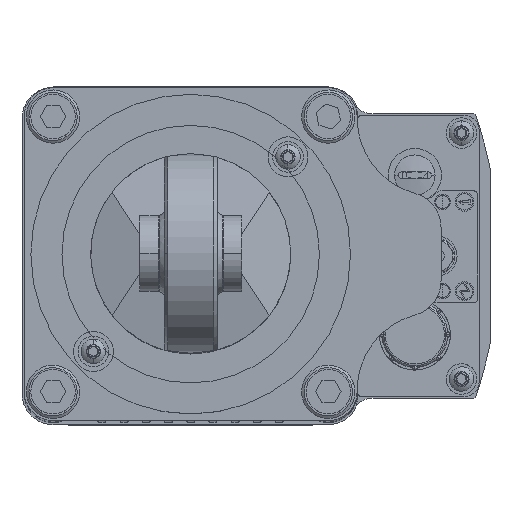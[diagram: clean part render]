
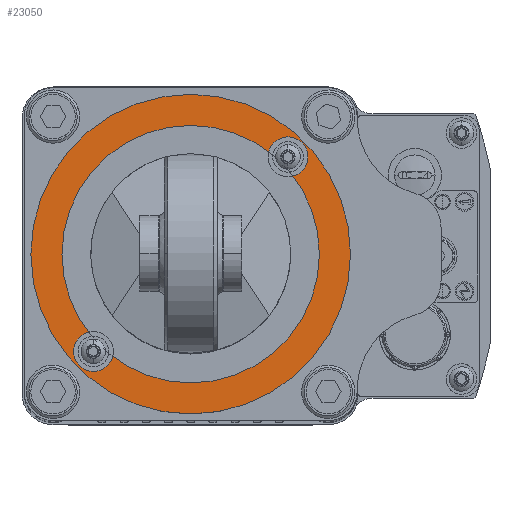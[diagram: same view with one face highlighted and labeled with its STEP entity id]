
A CAD part, top view. The second image highlights one B-rep face of the part: STEP entity #23050.
In plain terms, the highlighted planar face has unit normal (0, 0, 1).
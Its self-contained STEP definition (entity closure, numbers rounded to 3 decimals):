
#2644 = EDGE_LOOP ( 'NONE', ( #10191, #145426 ) ) ;
#3032 = VERTEX_POINT ( 'NONE', #33137 ) ;
#8788 = VERTEX_POINT ( 'NONE', #125389 ) ;
#9697 = CARTESIAN_POINT ( 'NONE',  ( 21.92, 21.92, 237.9 ) ) ;
#9721 = DIRECTION ( 'NONE',  ( 1., 0., 0. ) ) ;
#10191 = ORIENTED_EDGE ( 'NONE', *, *, #43139, .F. ) ;
#10385 = VERTEX_POINT ( 'NONE', #13974 ) ;
#10716 = CIRCLE ( 'NONE', #43282, 1.25 ) ;
#11981 = VERTEX_POINT ( 'NONE', #64451 ) ;
#13974 = CARTESIAN_POINT ( 'NONE',  ( 20.67, 21.92, 237.9 ) ) ;
#15721 = ORIENTED_EDGE ( 'NONE', *, *, #18798, .F. ) ;
#16858 = CARTESIAN_POINT ( 'NONE',  ( -21.92, -21.92, 237.9 ) ) ;
#17372 = AXIS2_PLACEMENT_3D ( 'NONE', #28205, #148674, #136764 ) ;
#18798 = EDGE_CURVE ( 'NONE', #72674, #3032, #84270, .T. ) ;
#19974 = AXIS2_PLACEMENT_3D ( 'NONE', #43620, #131505, #119681 ) ;
#22714 = AXIS2_PLACEMENT_3D ( 'NONE', #57145, #142815, #105620 ) ;
#23050 = ADVANCED_FACE ( 'NONE', ( #151437, #142693, #93613, #141913 ), #42881, .T. ) ;
#25005 = EDGE_LOOP ( 'NONE', ( #81691, #63979 ) ) ;
#25981 = AXIS2_PLACEMENT_3D ( 'NONE', #94511, #105654, #9721 ) ;
#28205 = CARTESIAN_POINT ( 'NONE',  ( 0., 0., 237.9 ) ) ;
#30241 = EDGE_LOOP ( 'NONE', ( #153117, #15721 ) ) ;
#33137 = CARTESIAN_POINT ( 'NONE',  ( -20.67, -21.92, 237.9 ) ) ;
#35007 = DIRECTION ( 'NONE',  ( 0., 0., 1. ) ) ;
#36123 = EDGE_CURVE ( 'NONE', #10385, #11981, #10716, .T. ) ;
#36903 = VERTEX_POINT ( 'NONE', #139314 ) ;
#42881 = PLANE ( 'NONE',  #118765 ) ;
#43139 = EDGE_CURVE ( 'NONE', #11981, #10385, #78756, .T. ) ;
#43209 = AXIS2_PLACEMENT_3D ( 'NONE', #9697, #35007, #93734 ) ;
#43282 = AXIS2_PLACEMENT_3D ( 'NONE', #79517, #70688, #141311 ) ;
#43620 = CARTESIAN_POINT ( 'NONE',  ( 0., 0., 237.9 ) ) ;
#45453 = VERTEX_POINT ( 'NONE', #71403 ) ;
#48311 = DIRECTION ( 'NONE',  ( 1., 0., 0. ) ) ;
#51727 = CIRCLE ( 'NONE', #127775, 1.25 ) ;
#57145 = CARTESIAN_POINT ( 'NONE',  ( 0., 0., 237.9 ) ) ;
#60249 = EDGE_CURVE ( 'NONE', #8788, #45453, #101487, .T. ) ;
#63979 = ORIENTED_EDGE ( 'NONE', *, *, #60249, .T. ) ;
#64451 = CARTESIAN_POINT ( 'NONE',  ( 23.17, 21.92, 237.9 ) ) ;
#65663 = CIRCLE ( 'NONE', #22714, 36. ) ;
#66230 = EDGE_LOOP ( 'NONE', ( #141789, #147737 ) ) ;
#70688 = DIRECTION ( 'NONE',  ( 0., 0., 1. ) ) ;
#71403 = CARTESIAN_POINT ( 'NONE',  ( -36., 0., 237.9 ) ) ;
#72674 = VERTEX_POINT ( 'NONE', #95200 ) ;
#73053 = CIRCLE ( 'NONE', #19974, 29. ) ;
#73598 = AXIS2_PLACEMENT_3D ( 'NONE', #113609, #101675, #149983 ) ;
#78756 = CIRCLE ( 'NONE', #43209, 1.25 ) ;
#79517 = CARTESIAN_POINT ( 'NONE',  ( 21.92, 21.92, 237.9 ) ) ;
#81691 = ORIENTED_EDGE ( 'NONE', *, *, #133907, .T. ) ;
#84006 = EDGE_CURVE ( 'NONE', #107070, #36903, #100881, .T. ) ;
#84270 = CIRCLE ( 'NONE', #25981, 1.25 ) ;
#84608 = EDGE_CURVE ( 'NONE', #36903, #107070, #73053, .T. ) ;
#93613 = FACE_OUTER_BOUND ( 'NONE', #25005, .T. ) ;
#93734 = DIRECTION ( 'NONE',  ( 1., 0., 0. ) ) ;
#94511 = CARTESIAN_POINT ( 'NONE',  ( -21.92, -21.92, 237.9 ) ) ;
#95200 = CARTESIAN_POINT ( 'NONE',  ( -23.17, -21.92, 237.9 ) ) ;
#100881 = CIRCLE ( 'NONE', #17372, 29. ) ;
#101487 = CIRCLE ( 'NONE', #73598, 36. ) ;
#101675 = DIRECTION ( 'NONE',  ( 0., 0., 1. ) ) ;
#105620 = DIRECTION ( 'NONE',  ( 1., 0., 0. ) ) ;
#105654 = DIRECTION ( 'NONE',  ( 0., 0., 1. ) ) ;
#107057 = DIRECTION ( 'NONE',  ( 0., 0., 1. ) ) ;
#107070 = VERTEX_POINT ( 'NONE', #118528 ) ;
#113609 = CARTESIAN_POINT ( 'NONE',  ( 0., 0., 237.9 ) ) ;
#118528 = CARTESIAN_POINT ( 'NONE',  ( 29., 0., 237.9 ) ) ;
#118765 = AXIS2_PLACEMENT_3D ( 'NONE', #146624, #107057, #48311 ) ;
#119681 = DIRECTION ( 'NONE',  ( 1., 0., 0. ) ) ;
#125389 = CARTESIAN_POINT ( 'NONE',  ( 36., 0., 237.9 ) ) ;
#126922 = DIRECTION ( 'NONE',  ( 1., 0., 0. ) ) ;
#127775 = AXIS2_PLACEMENT_3D ( 'NONE', #16858, #149931, #126922 ) ;
#131505 = DIRECTION ( 'NONE',  ( 0., 0., 1. ) ) ;
#133907 = EDGE_CURVE ( 'NONE', #45453, #8788, #65663, .T. ) ;
#136764 = DIRECTION ( 'NONE',  ( 1., 0., 0. ) ) ;
#139314 = CARTESIAN_POINT ( 'NONE',  ( -29., 0., 237.9 ) ) ;
#141311 = DIRECTION ( 'NONE',  ( 1., 0., 0. ) ) ;
#141789 = ORIENTED_EDGE ( 'NONE', *, *, #84608, .F. ) ;
#141913 = FACE_BOUND ( 'NONE', #66230, .T. ) ;
#142693 = FACE_BOUND ( 'NONE', #30241, .T. ) ;
#142815 = DIRECTION ( 'NONE',  ( 0., 0., 1. ) ) ;
#143401 = EDGE_CURVE ( 'NONE', #3032, #72674, #51727, .T. ) ;
#145426 = ORIENTED_EDGE ( 'NONE', *, *, #36123, .F. ) ;
#146624 = CARTESIAN_POINT ( 'NONE',  ( 0., 0., 237.9 ) ) ;
#147737 = ORIENTED_EDGE ( 'NONE', *, *, #84006, .F. ) ;
#148674 = DIRECTION ( 'NONE',  ( 0., 0., 1. ) ) ;
#149931 = DIRECTION ( 'NONE',  ( 0., 0., 1. ) ) ;
#149983 = DIRECTION ( 'NONE',  ( 1., 0., 0. ) ) ;
#151437 = FACE_BOUND ( 'NONE', #2644, .T. ) ;
#153117 = ORIENTED_EDGE ( 'NONE', *, *, #143401, .F. ) ;
